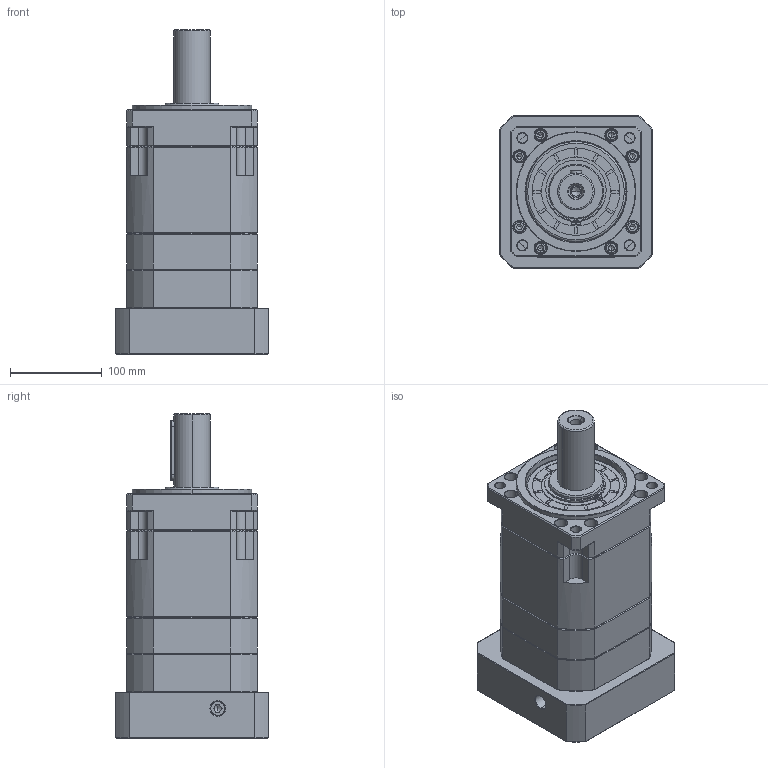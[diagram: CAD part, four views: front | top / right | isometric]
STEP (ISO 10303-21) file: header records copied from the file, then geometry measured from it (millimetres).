
FILE_DESCRIPTION (( 'STEP AP214' ), '1' );
FILE_NAME ('ZB142A-D40-L3-28-130-174-M10.step', '2023-03-17T10:47:37', ( '' ), ( '' ), 'SwSTEP 2.0', 'SolidWorks 2016', '' );
FILE_SCHEMA (( 'AUTOMOTIVE_DESIGN' ));
Length unit declared in the file: millimetre
Products named in the file (1): ZB142A-D40-L3-28-130-174-M10
Bounding box: 166 x 166 x 353.2 mm (x, y, z)
Volume: 5090803.9 mm3; surface area: 345314.1 mm2
Topology: 6 solids, 6 shells, 2066 faces, 5449 edges, 3482 vertices
Faces by surface type: plane 935, cylinder 436, cone 360, bspline 313, torus 22
Entity records: 114419 total; most frequent: CARTESIAN_POINT 43248, ORIENTED_EDGE 10838, DIRECTION 8919, EDGE_CURVE 5419, VERTEX_POINT 3482, VECTOR 3303, LINE 3303, AXIS2_PLACEMENT_3D 2808
